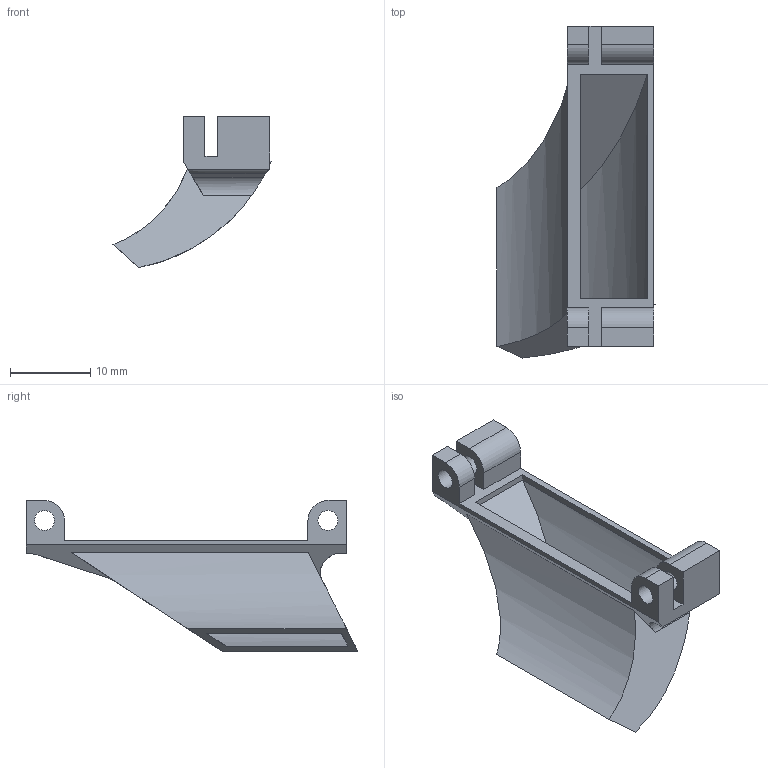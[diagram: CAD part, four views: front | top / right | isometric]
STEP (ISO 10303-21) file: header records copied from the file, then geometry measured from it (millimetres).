
FILE_DESCRIPTION(('STEP AP214'), '1');
FILE_NAME('ñîïëî ïðàâîå', '', ('UNSPECIFIED'), ('UNSPECIFIED'), 'C3D Converter', 'C3D Toolkit', '');
FILE_SCHEMA(('AUTOMOTIVE_DESIGN { 1 0 10303 214 3 1 1}'));
Length unit declared in the file: millimetre
Bounding box: 19.74 x 41.43 x 18.88 mm (x, y, z)
Volume: 1566.3 mm3; surface area: 3144.8 mm2
Topology: 1 solids, 1 shells, 51 faces, 141 edges, 93 vertices
Faces by surface type: plane 33, cylinder 18
Full cylindrical faces by diameter (mm): 2.5 x4
Entity records: 2164 total; most frequent: CARTESIAN_POINT 448, ORIENTED_EDGE 274, DIRECTION 238, EDGE_CURVE 137, LINE 98, VECTOR 98, VERTEX_POINT 93, AXIS2_PLACEMENT_3D 70
